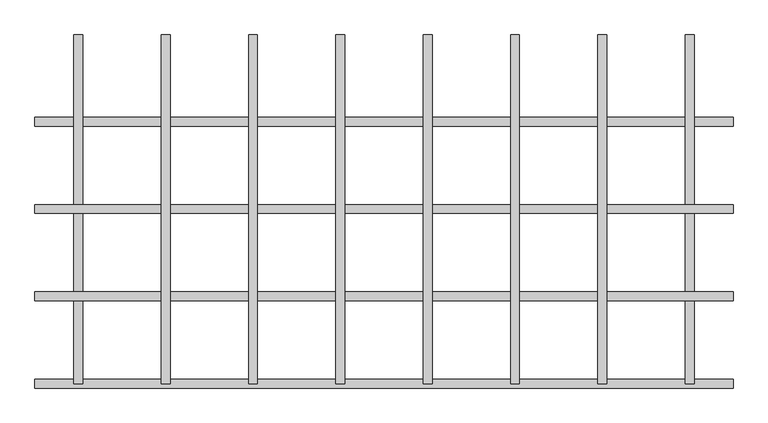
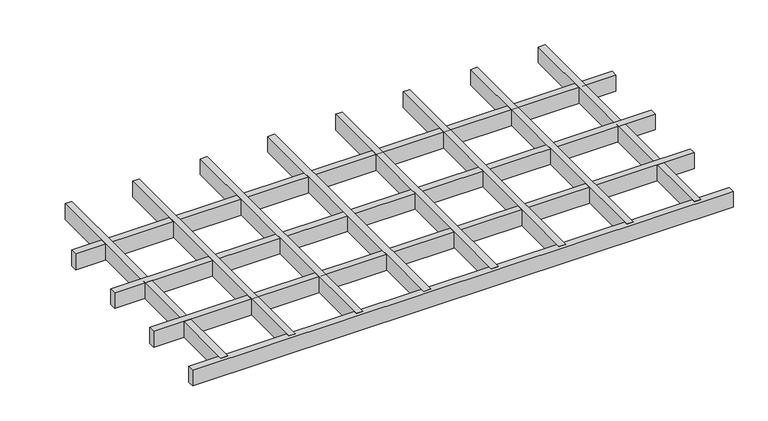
"""IFC4 building model written with IfcOpenShell, lengths in millimetres: proxy geometry, durlum_GEO_panel : durlum_GEO_15."""

from ifc_helpers import new_model, si_unit, origin, origin_with_axes, place, context, project, spatial, polyline, outline, extrude, source, transform, mapped, element, save


def generic_models_8f572224(model_context):
    return source(origin(), model_context, "Body", "SweptSolid", [
        extrude(outline(polyline([(367.5, 299.5), (382.5, 299.5), (382.5, -299.5), (367.5, -299.5), (367.5, 299.5)])), origin_with_axes(), (0.0, 0.0, 1.0), 37.0),
        extrude(outline(polyline([(217.5, 299.5), (232.5, 299.5), (232.5, -299.5), (217.5, -299.5), (217.5, 299.5)])), origin_with_axes(), (0.0, 0.0, 1.0), 37.0),
        extrude(outline(polyline([(67.5, 299.5), (82.5, 299.5), (82.5, -299.5), (67.5, -299.5), (67.5, 299.5)])), origin_with_axes(), (0.0, 0.0, 1.0), 37.0),
        extrude(outline(polyline([(-82.5, 299.5), (-67.5, 299.5), (-67.5, -299.5), (-82.5, -299.5), (-82.5, 299.5)])), origin_with_axes(), (0.0, 0.0, 1.0), 37.0),
        extrude(outline(polyline([(-232.5, 299.5), (-217.5, 299.5), (-217.5, -299.5), (-232.5, -299.5), (-232.5, 299.5)])), origin_with_axes(), (0.0, 0.0, 1.0), 37.0),
        extrude(outline(polyline([(-382.5, 299.5), (-367.5, 299.5), (-367.5, -299.5), (-382.5, -299.5), (-382.5, 299.5)])), origin_with_axes(), (0.0, 0.0, 1.0), 37.0),
        extrude(outline(polyline([(599.5, -142.0), (599.5, -157.0), (-599.5, -157.0), (-599.5, -142.0), (599.5, -142.0)])), origin_with_axes(), (0.0, 0.0, 1.0), 37.0),
        extrude(outline(polyline([(599.5, 8.0), (599.5, -7.0), (-599.5, -7.0), (-599.5, 8.0), (599.5, 8.0)])), origin_with_axes(), (0.0, 0.0, 1.0), 37.0),
        extrude(outline(polyline([(517.5, 299.5), (532.5, 299.5), (532.5, -299.5), (517.5, -299.5), (517.5, 299.5)])), origin_with_axes(), (0.0, 0.0, 1.0), 37.0),
        extrude(outline(polyline([(-532.5, 299.5), (-517.5, 299.5), (-517.5, -299.5), (-532.5, -299.5), (-532.5, 299.5)])), origin_with_axes(), (0.0, 0.0, 1.0), 37.0),
        extrude(outline(polyline([(599.5, -292.0), (599.5, -307.0), (-599.5, -307.0), (-599.5, -292.0), (599.5, -292.0)])), origin_with_axes(), (0.0, 0.0, 1.0), 37.0),
        extrude(outline(polyline([(599.5, 158.0), (599.5, 143.0), (-599.5, 143.0), (-599.5, 158.0), (599.5, 158.0)])), origin_with_axes(), (0.0, 0.0, 1.0), 37.0),
    ])


if __name__ == "__main__":
    model = new_model("IFC4")
    model_context = context("Model", 3, world=origin())
    ifc_project = project(units=[si_unit("LENGTHUNIT", "METRE", prefix="MILLI")], contexts=[model_context])
    site = spatial("IfcSite", under=ifc_project)
    building = spatial("IfcBuilding", under=site)
    placement = place(None, origin())
    generic_models_shape = generic_models_8f572224(model_context)
    element("IfcBuildingElementProxy", 1, Name="durlum_GEO_panel : durlum_GEO_15", ObjectType="durlum_GEO_panel : durlum_GEO_15", at=placement, inside=building, context=model_context, shape_type="MappedRepresentation", body=[
        mapped(generic_models_shape, transform((0.0, 0.0, 0.0), x_axis=(1.0, 0.0, 0.0), y_axis=(0.0, 1.0, 0.0), z_axis=(0.0, 0.0, 1.0))),
    ])
    save(model, "model.ifc")
